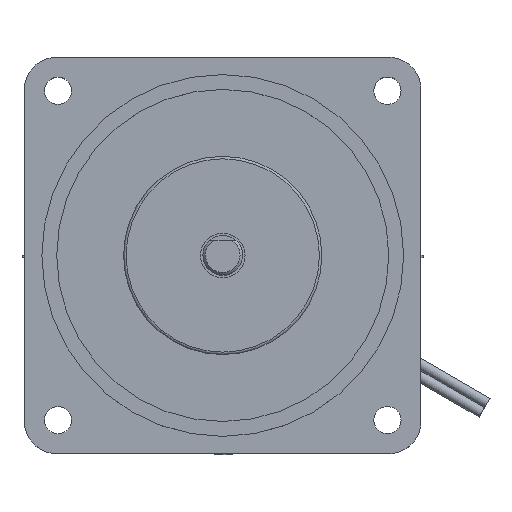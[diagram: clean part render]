
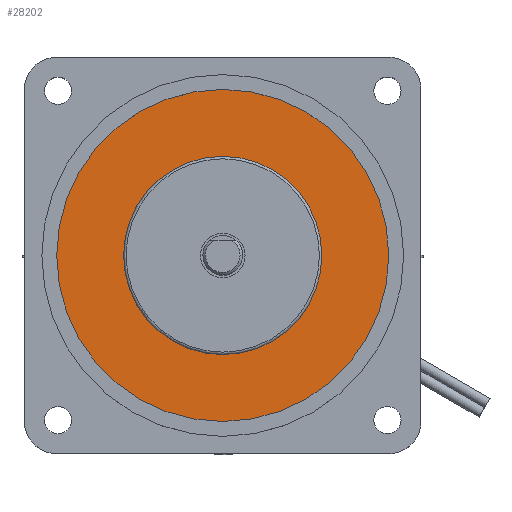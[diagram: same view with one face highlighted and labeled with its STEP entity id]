
A CAD part, top view. The second image highlights one B-rep face of the part: STEP entity #28202.
In plain terms, the highlighted planar face has unit normal (0, 0, 1).
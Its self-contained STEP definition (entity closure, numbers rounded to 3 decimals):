
#27877=CARTESIAN_POINT('',(20.0,0.,5.5));
#27878=VERTEX_POINT('',#27877);
#27879=CARTESIAN_POINT('',(0.0,0.0,5.5));
#27880=DIRECTION('',(0.0,0.0,1.0));
#27881=DIRECTION('',(-1.0,0.0,0.0));
#27882=AXIS2_PLACEMENT_3D('',#27879,#27880,#27881);
#27883=CIRCLE('',#27882,20.0);
#27884=EDGE_CURVE('',#27878,#27878,#27883,.T.);
#28168=CARTESIAN_POINT('',(33.5,0.,5.5));
#28169=VERTEX_POINT('',#28168);
#28170=CARTESIAN_POINT('',(0.0,0.0,5.5));
#28171=DIRECTION('',(0.0,0.0,1.0));
#28172=DIRECTION('',(-1.0,0.0,0.0));
#28173=AXIS2_PLACEMENT_3D('',#28170,#28171,#28172);
#28174=CIRCLE('',#28173,33.5);
#28175=EDGE_CURVE('',#28169,#28169,#28174,.T.);
#28191=CARTESIAN_POINT('',(0.0,0.0,5.5));
#28192=DIRECTION('',(0.0,0.0,-1.0));
#28193=DIRECTION('',(-1.0,0.0,0.0));
#28194=AXIS2_PLACEMENT_3D('',#28191,#28192,#28193);
#28195=PLANE('',#28194);
#28196=ORIENTED_EDGE('',*,*,#28175,.T.);
#28197=EDGE_LOOP('',(#28196));
#28198=FACE_OUTER_BOUND('',#28197,.T.);
#28199=ORIENTED_EDGE('',*,*,#27884,.F.);
#28200=EDGE_LOOP('',(#28199));
#28201=FACE_BOUND('',#28200,.T.);
#28202=ADVANCED_FACE('',(#28198,#28201),#28195,.F.);
